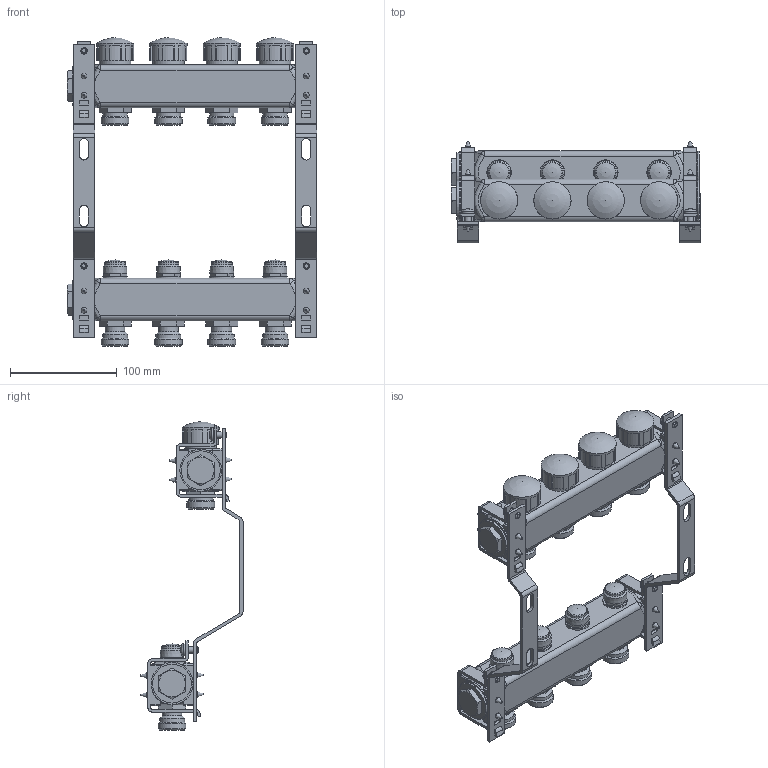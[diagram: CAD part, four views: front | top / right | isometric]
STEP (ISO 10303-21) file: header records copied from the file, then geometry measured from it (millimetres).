
FILE_DESCRIPTION(('STEP AP203'), '1');
FILE_NAME('VTc.582.EMNX.0604', '', ('UNSPECIFIED'), ('UNSPECIFIED'), 'C3D Converter', 'C3D Toolkit', '');
FILE_SCHEMA(('CONFIG_CONTROL_DESIGN'));
Length unit declared in the file: millimetre
Products named in the file (1): -01
Bounding box: 234.2 x 95.7 x 289.2 mm (x, y, z)
Volume: 937094.5 mm3; surface area: 153268.6 mm2
Topology: 1 solids, 1 shells, 948 faces, 2600 edges, 1660 vertices
Faces by surface type: plane 520, cylinder 248, cone 68, torus 68, bspline 36, sphere 8
Full cylindrical faces by diameter (mm): 5.4 x16, 6 x8, 12 x4, 18.4 x4, 19.3 x4, 22.9 x4, 23 x4, 23.5 x4, 25.9 x4, 26 x4, 29.5 x4, 34.9 x4, 35.3 x2, 36.5 x2, 39.3 x4
Entity records: 39894 total; most frequent: CARTESIAN_POINT 16589, ORIENTED_EDGE 4864, DIRECTION 4662, EDGE_CURVE 2432, AXIS2_PLACEMENT_3D 1653, VERTEX_POINT 1650, LINE 1356, VECTOR 1356
